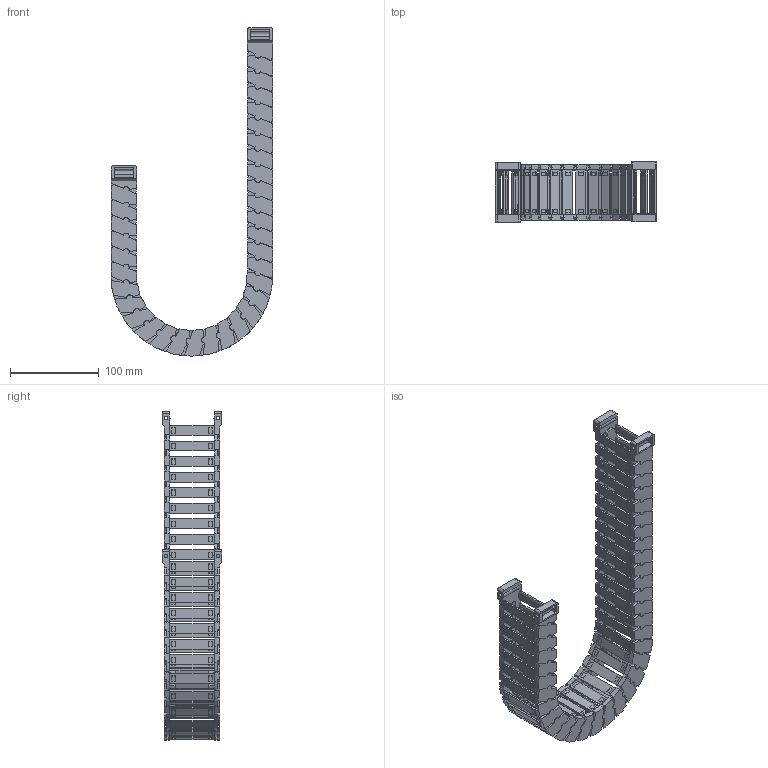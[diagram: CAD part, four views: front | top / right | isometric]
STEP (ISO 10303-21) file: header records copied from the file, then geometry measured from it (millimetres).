
FILE_DESCRIPTION(/* description */ (''),/* implementation_level */ '2;1');
FILE_NAME(/* name */ 'JY22-50-R75.stp',/* time_stamp */ '2026-06-20T14:48:15+08:00',/* author */ (''),/* organization */ (''),/* preprocessor_version */ 'ST-DEVELOPER v19.4',/* originating_system */ 'SIEMENS PLM Software NX2306.5001',/* authorisation */ '');
FILE_SCHEMA (('AP203_CONFIGURATION_CONTROLLED_3D_DESIGN_OF_MECHANICAL_PARTS_AND_ASSEMBLIES_MIM_LF { 1 0 10303 403 2 1 2}'));
Products named in the file (1): 简易图纸_objects
Bounding box: 182.32 x 67.5 x 369.64 mm (x, y, z)
Volume: 297162.6 mm3; surface area: 266401 mm2
Topology: 35 solids, 35 shells, 5796 faces, 18770 edges, 12494 vertices
Faces by surface type: plane 4338, cylinder 918, cone 272, bspline 268
Full cylindrical faces by diameter (mm): 4.2 x8, 7 x68, 7.1 x68
Entity records: 215779 total; most frequent: CARTESIAN_POINT 51317, ORIENTED_EDGE 36964, DIRECTION 31874, EDGE_CURVE 18482, LINE 12616, VECTOR 12616, VERTEX_POINT 12350, AXIS2_PLACEMENT_3D 9629
